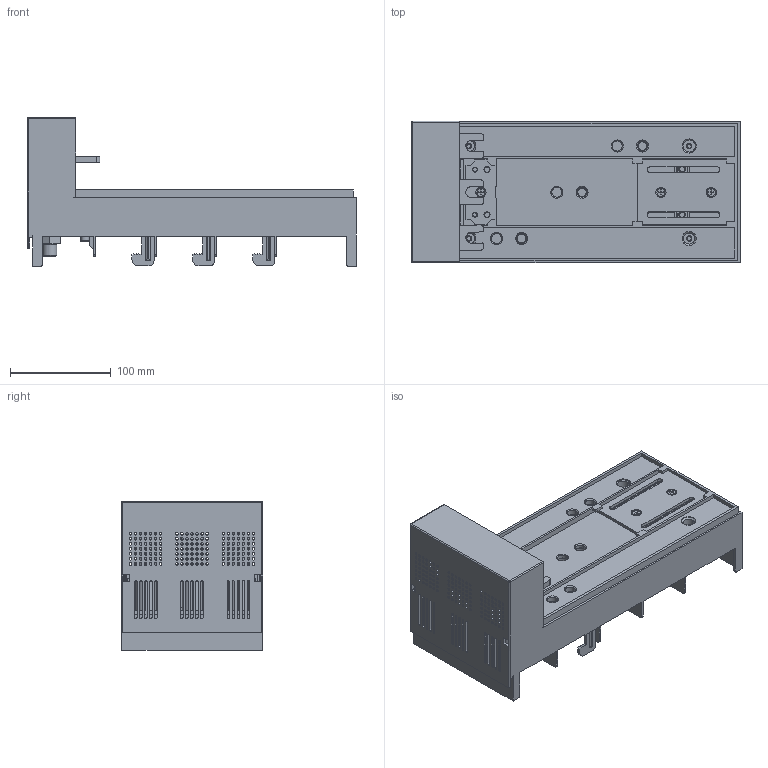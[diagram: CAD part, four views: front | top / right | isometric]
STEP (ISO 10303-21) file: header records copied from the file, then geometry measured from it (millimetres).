
FILE_DESCRIPTION (( 'STEP AP214' ), '1' );
FILE_NAME ('55086潠芞.ST', '2023-08-03T07:58:22', ( 'Windows User' ), ( 'P R C' ), 'SwSTEP 2.0', 'SolidWorks 2019', '' );
FILE_SCHEMA (( 'AUTOMOTIVE_DESIGN' ));
Length unit declared in the file: millimetre
Products named in the file (1): 55086潠芞赤_“a_
Bounding box: 327 x 140.5 x 148 mm (x, y, z)
Volume: 1707852.4 mm3; surface area: 424441.5 mm2
Topology: 2 solids, 48 shells, 4687 faces, 12630 edges, 8100 vertices
Faces by surface type: plane 3359, cylinder 1000, bspline 152, cone 148, torus 22, sphere 6
Entity records: 159425 total; most frequent: CARTESIAN_POINT 41777, ORIENTED_EDGE 25228, DIRECTION 23056, EDGE_CURVE 12614, VECTOR 9632, LINE 9632, VERTEX_POINT 8100, AXIS2_PLACEMENT_3D 6712
